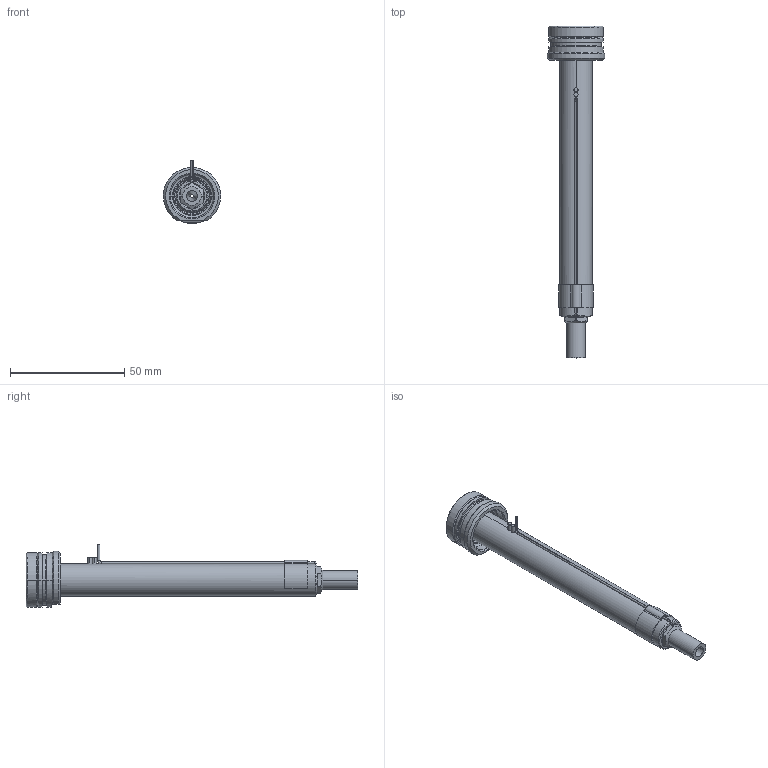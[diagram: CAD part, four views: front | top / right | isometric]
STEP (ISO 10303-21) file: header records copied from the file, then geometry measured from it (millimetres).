
FILE_DESCRIPTION((''),'2;1');
FILE_NAME('EO04_SG_ESG_120_SW','2024-02-19T12:14:17',('sundharh'),(''),'CREO PARAMETRIC BY PTC INC, 2023154','CREO PARAMETRIC BY PTC INC, 2023154','');
FILE_SCHEMA(('CONFIG_CONTROL_DESIGN'));
Length unit declared in the file: millimetre
Products named in the file (1): EO04_SG_ESG_120_SW
Bounding box: 24.99 x 145 x 27.5 mm (x, y, z)
Volume: 22589.6 mm3; surface area: 11086.6 mm2
Topology: 2 solids, 2 shells, 182 faces, 461 edges, 277 vertices
Faces by surface type: cylinder 67, plane 45, cone 34, torus 22, bspline 11, sphere 3
Entity records: 6489 total; most frequent: CARTESIAN_POINT 2097, DIRECTION 950, ORIENTED_EDGE 906, EDGE_CURVE 453, AXIS2_PLACEMENT_3D 395, VERTEX_POINT 277, CIRCLE 224, EDGE_LOOP 196
